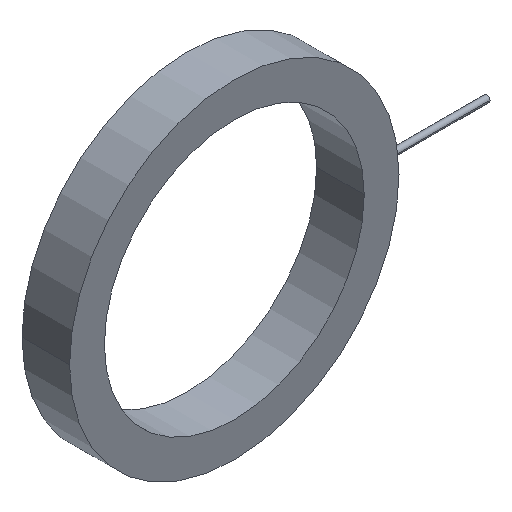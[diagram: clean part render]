
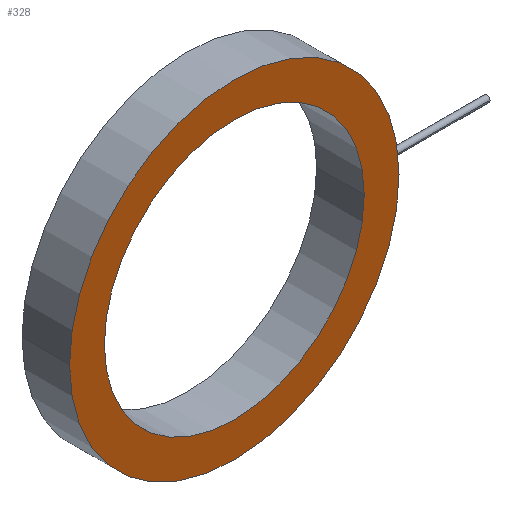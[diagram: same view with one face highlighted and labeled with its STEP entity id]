
A CAD part, isometric view. The second image highlights one B-rep face of the part: STEP entity #328.
In plain terms, the highlighted planar face has unit normal (0, -1, 0).
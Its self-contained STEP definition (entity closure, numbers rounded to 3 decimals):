
#1=CARTESIAN_POINT('',(0.,0.,0.));
#2=DIRECTION('',(0.,1.,0.));
#3=DIRECTION('',(1.,0.,0.));
#4=AXIS2_PLACEMENT_3D('',#1,#2,#3);
#6=CARTESIAN_POINT('',(0.,0.,0.));
#7=DIRECTION('',(0.,1.,0.));
#8=DIRECTION('',(-1.,0.,0.));
#9=AXIS2_PLACEMENT_3D('',#6,#7,#8);
#11=CARTESIAN_POINT('',(0.,0.,0.));
#12=DIRECTION('',(0.,-1.,0.));
#13=DIRECTION('',(1.,0.,0.));
#14=AXIS2_PLACEMENT_3D('',#11,#12,#13);
#16=CARTESIAN_POINT('',(0.,0.,0.));
#17=DIRECTION('',(0.,-1.,0.));
#18=DIRECTION('',(-1.,0.,0.));
#19=AXIS2_PLACEMENT_3D('',#16,#17,#18);
#249=CARTESIAN_POINT('',(90.,0.,0.));
#250=CARTESIAN_POINT('',(-90.,0.,0.));
#251=VERTEX_POINT('',#249);
#252=VERTEX_POINT('',#250);
#253=CARTESIAN_POINT('',(71.,0.,0.));
#254=CARTESIAN_POINT('',(-71.,0.,0.));
#255=VERTEX_POINT('',#253);
#256=VERTEX_POINT('',#254);
#311=CARTESIAN_POINT('',(0.,0.,0.));
#312=DIRECTION('',(0.,1.,0.));
#313=DIRECTION('',(1.,0.,0.));
#314=AXIS2_PLACEMENT_3D('',#311,#312,#313);
#315=PLANE('',#314);
#317=ORIENTED_EDGE('',*,*,#316,.T.);
#319=ORIENTED_EDGE('',*,*,#318,.T.);
#320=EDGE_LOOP('',(#317,#319));
#321=FACE_OUTER_BOUND('',#320,.F.);
#323=ORIENTED_EDGE('',*,*,#322,.T.);
#325=ORIENTED_EDGE('',*,*,#324,.T.);
#326=EDGE_LOOP('',(#323,#325));
#327=FACE_BOUND('',#326,.F.);
#5=CIRCLE('',#4,90.);
#10=CIRCLE('',#9,90.);
#15=CIRCLE('',#14,71.);
#20=CIRCLE('',#19,71.);
#316=EDGE_CURVE('',#251,#252,#5,.T.);
#318=EDGE_CURVE('',#252,#251,#10,.T.);
#322=EDGE_CURVE('',#255,#256,#15,.T.);
#324=EDGE_CURVE('',#256,#255,#20,.T.);
#328=ADVANCED_FACE('',(#321,#327),#315,.F.);
